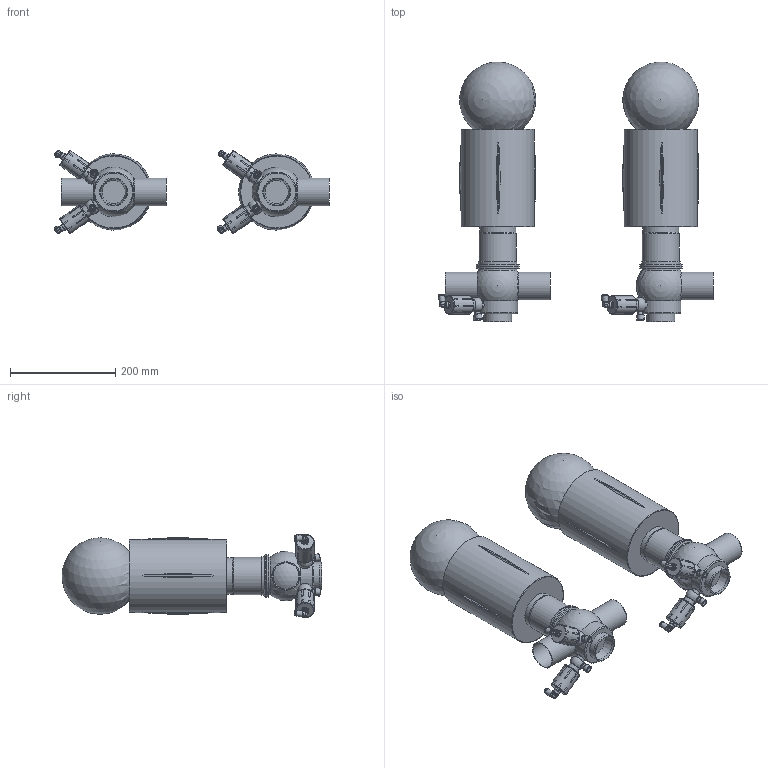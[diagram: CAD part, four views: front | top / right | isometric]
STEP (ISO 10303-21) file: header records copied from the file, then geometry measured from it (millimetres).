
FILE_DESCRIPTION(/* description */ (''),/* implementation_level */ '2;1');
FILE_NAME(/* name */ 'C:\Users\marz-m\Downloads\BZZAW3 3D STEP\BZAW3-DN050 53X1.5-SAL.stp',/* time_stamp */ '2018-09-26T11:12:04+02:00',/* author */ ('marz-m'),/* organization */ (''),/* preprocessor_version */ 'ST-DEVELOPER v17',/* originating_system */ 'Autodesk Inventor 2018',/* authorisation */ '');
FILE_SCHEMA (('AUTOMOTIVE_DESIGN { 1 0 10303 214 3 1 1 }'));
Length unit declared in the file: millimetre
Products named in the file (7): BZAW3-DN050 53X1.5-SAL; TRH6A0050BBA; Assemblaggio-DN050; CIL134; SAGOMA-GIOTTO-; TRH5A0050BBA; Valvolina 3A
Assembly tree (12 placements, depth 2):
  BZAW3-DN050 53X1.5-SAL
    SAGOMA-GIOTTO-  x2
    CIL134  x2
    Assemblaggio-DN050  x2
    TRH6A0050BBA
    TRH5A0050BBA
    Valvolina 3A  x4
Bounding box: 522.39 x 493.47 x 157.72 mm (x, y, z)
Volume: 10597391.6 mm3; surface area: 609625.3 mm2
Topology: 12 solids, 12 shells, 639 faces, 1817 edges, 1284 vertices
Faces by surface type: plane 280, cylinder 190, cone 88, bspline 44, torus 26, sphere 11
Full cylindrical faces by diameter (mm): 2 x8, 6 x16, 7 x4, 8 x4, 8.1 x4, 10 x4, 11 x4, 11.5 x4, 12.918 x4, 13.157 x4, 14 x4, 15.9 x4, 16 x4, 20 x4, 22 x4, 35 x4, 50 x5, 53 x5, 69 x2, 71 x2, 73 x2, 76 x2, 81 x4, 139 x2
Entity records: 10169 total; most frequent: CARTESIAN_POINT 3760, DIRECTION 1278, ORIENTED_EDGE 1260, EDGE_CURVE 630, AXIS2_PLACEMENT_3D 539, VERTEX_POINT 458, CIRCLE 296, EDGE_LOOP 278
